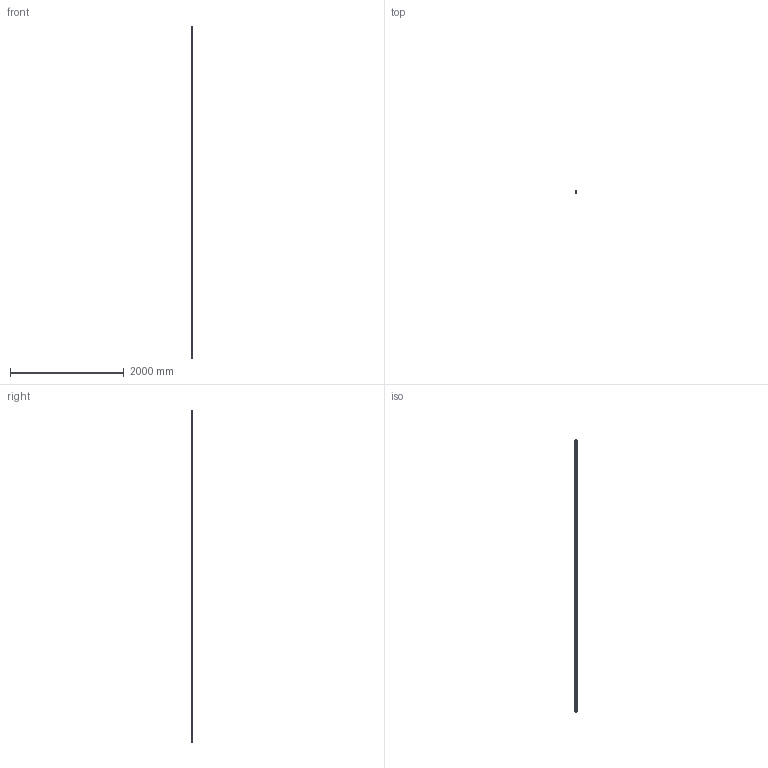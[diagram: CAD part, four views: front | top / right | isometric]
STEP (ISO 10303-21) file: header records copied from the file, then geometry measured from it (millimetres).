
FILE_DESCRIPTION((''),'2;1');
FILE_NAME('KUGELSCHIENE_CS_ASM','2021-10-14T09:53:28',('ac91sw'),(''),'CREO PARAMETRIC BY PTC INC, 2020044','CREO PARAMETRIC BY PTC INC, 2020044','');
FILE_SCHEMA(('AUTOMOTIVE_DESIGN { 1 0 10303 214 1 1 1 1 }'));
Length unit declared in the file: millimetre
Products named in the file (3): KUGELSCHIENE_CS_SKEL; KUGELSCHIENE_CS_RAIL1; KUGELSCHIENE_CS_ASM
Assembly tree (2 placements, depth 2):
  KUGELSCHIENE_CS_ASM
    KUGELSCHIENE_CS_SKEL
    KUGELSCHIENE_CS_RAIL1
Bounding box: 28 x 28.35 x 5836 mm (x, y, z)
Volume: 3627459.5 mm3; surface area: 737905.8 mm2
Topology: 1 solids, 74 shells, 589 faces, 1494 edges, 907 vertices
Faces by surface type: cylinder 296, cone 154, plane 139
Entity records: 18622 total; most frequent: DIRECTION 3270, CARTESIAN_POINT 2919, ORIENTED_EDGE 2404, EDGE_CURVE 1348, AXIS2_PLACEMENT_3D 1342, VERTEX_POINT 907, CIRCLE 746, EDGE_LOOP 735
